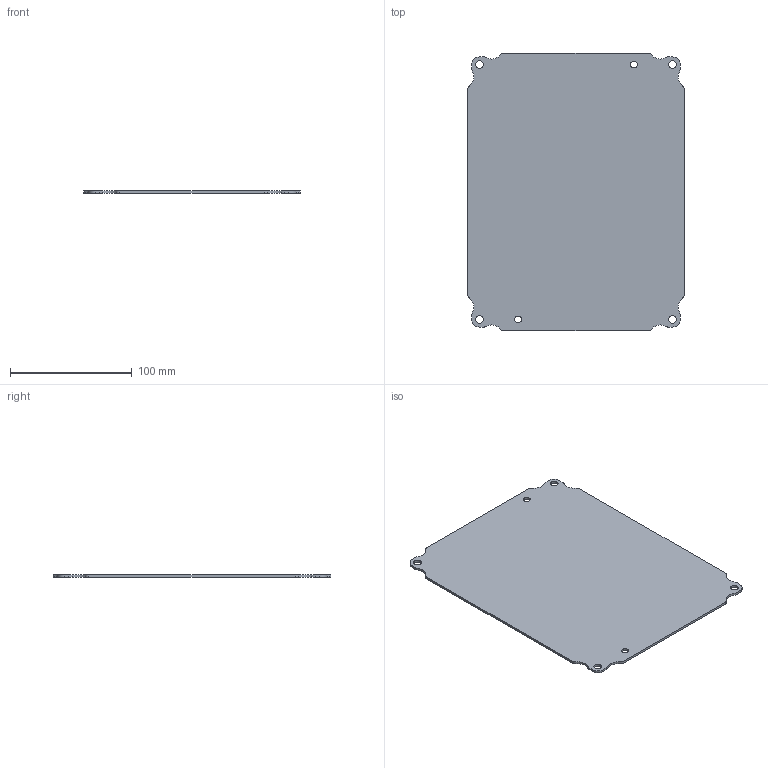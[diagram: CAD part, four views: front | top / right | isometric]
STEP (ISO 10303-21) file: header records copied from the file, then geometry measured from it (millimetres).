
FILE_DESCRIPTION((''),'2;1');
FILE_NAME('MODEL-082_ASM','2017-12-29T06:23:08',('joelb'),('SAGINAW CONTROL & ENGINEERING'),'CREO PARAMETRIC BY PTC INC, 2017260','CREO PARAMETRIC BY PTC INC, 2017260','');
FILE_SCHEMA(('AUTOMOTIVE_DESIGN { 1 0 10303 214 1 1 1 1 }'));
Length unit declared in the file: inch
Products named in the file (2): MODEL-082-SUBPNL; MODEL-082_ASM
Assembly tree (1 placements, depth 2):
  MODEL-082_ASM
    MODEL-082-SUBPNL
Bounding box: 177.8 x 228.6 x 1.91 mm (x, y, z)
Volume: 75621.1 mm3; surface area: 81118.5 mm2
Topology: 1 solids, 1 shells, 54 faces, 156 edges, 104 vertices
Faces by surface type: cylinder 40, plane 14
Entity records: 2983 total; most frequent: DIRECTION 350, CARTESIAN_POINT 321, ORIENTED_EDGE 312, PRESENTATION_STYLE_ASSIGNMENT 157, STYLED_ITEM 157, CURVE_STYLE 156, EDGE_CURVE 156, AXIS2_PLACEMENT_3D 137
